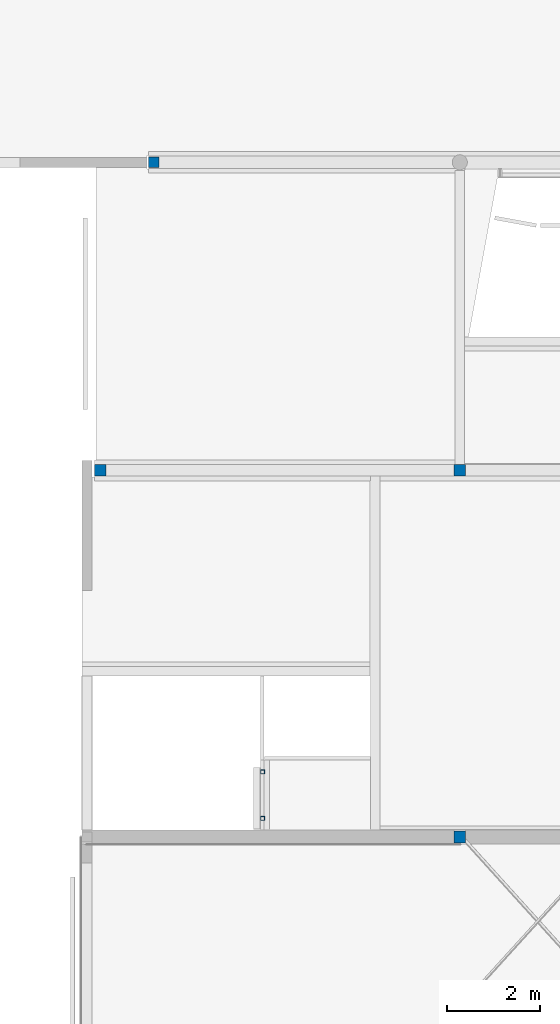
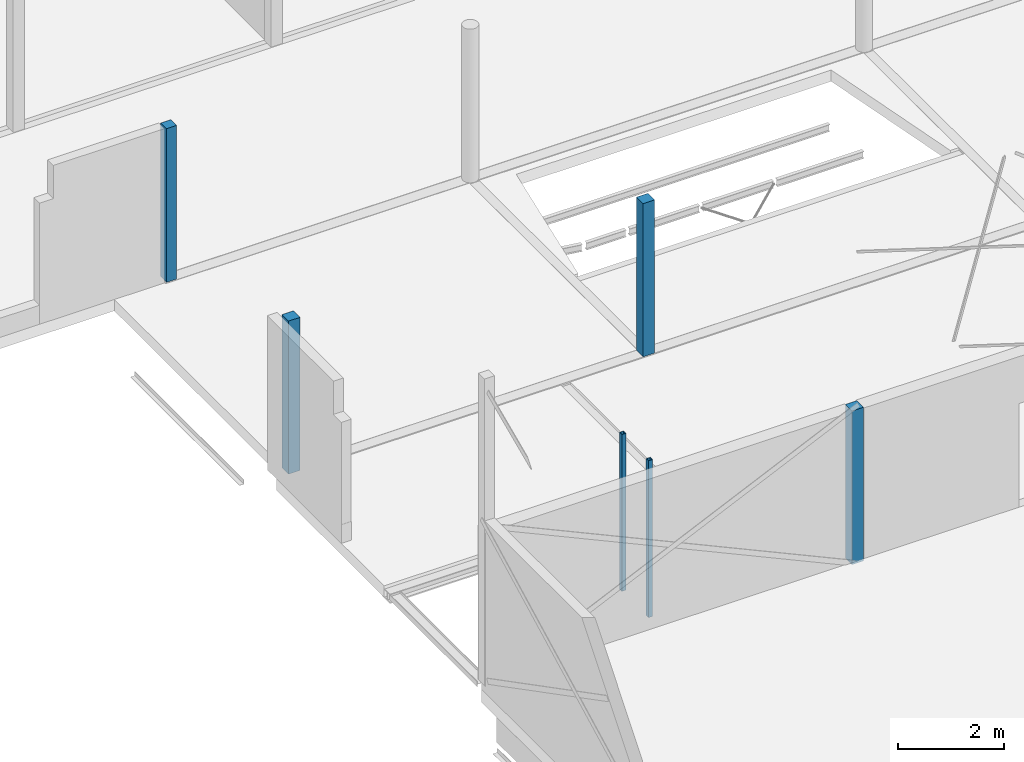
# One storey, part 2 of 14: 6 columns.
"""IFC2X3 building model written with IfcOpenShell, lengths in millimetres."""

from ifc_helpers import new_model, entity, si_unit, converted_unit, derived_unit, direction, frame, frame_2d, origin, place, context, subcontext, project, spatial, polyline, rectangle, outline, extrude, source, transform, mapped, material, material_list, type_object, type_shapes, element, save


model = new_model("IFC2X3")

# Units and contexts
model_context = context("Model", 3, precision=0.01, world=origin(), true_north=direction((6.123031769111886e-17, 1.0)))
body_context = subcontext(model_context, "Body", "Model", "MODEL_VIEW")
ifc_project = project(units=[si_unit("LENGTHUNIT", "METRE", prefix="MILLI"), si_unit("AREAUNIT", "SQUARE_METRE", prefix="MILLI"), si_unit("VOLUMEUNIT", "CUBIC_METRE"), converted_unit("PLANEANGLEUNIT", "DEGREE", entity("IfcPlaneAngleMeasure", 0.017453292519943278), si_unit("PLANEANGLEUNIT", "RADIAN"), dimensions=[0, 0, 0, 0, 0, 0, 0]), si_unit("MASSUNIT", "GRAM", prefix="KILO"), derived_unit("MASSDENSITYUNIT", [(si_unit("MASSUNIT", "GRAM", prefix="KILO"), 1), (si_unit("LENGTHUNIT", "METRE"), -3)]), derived_unit("IONCONCENTRATIONUNIT", [(si_unit("MASSUNIT", "GRAM", prefix="KILO"), 1), (si_unit("LENGTHUNIT", "METRE"), -3)]), derived_unit("MOMENTOFINERTIAUNIT", [(si_unit("LENGTHUNIT", "METRE"), 4)]), si_unit("TIMEUNIT", "SECOND"), si_unit("FREQUENCYUNIT", "HERTZ"), si_unit("THERMODYNAMICTEMPERATUREUNIT", "DEGREE_CELSIUS"), derived_unit("THERMALTRANSMITTANCEUNIT", [(si_unit("MASSUNIT", "GRAM", prefix="KILO"), 1), (si_unit("THERMODYNAMICTEMPERATUREUNIT", "KELVIN"), -1), (si_unit("TIMEUNIT", "SECOND"), -3)]), derived_unit("THERMALCONDUCTANCEUNIT", [(si_unit("MASSUNIT", "GRAM", prefix="KILO"), 1), (si_unit("THERMODYNAMICTEMPERATUREUNIT", "KELVIN"), -1), (si_unit("TIMEUNIT", "SECOND"), -3), (si_unit("LENGTHUNIT", "METRE"), 1)]), derived_unit("VOLUMETRICFLOWRATEUNIT", [(si_unit("LENGTHUNIT", "METRE", prefix="DECI"), 3), (si_unit("TIMEUNIT", "SECOND"), -1)]), derived_unit("MASSFLOWRATEUNIT", [(si_unit("MASSUNIT", "GRAM", prefix="KILO"), 1), (si_unit("TIMEUNIT", "SECOND"), -1)]), derived_unit("ROTATIONALFREQUENCYUNIT", [(si_unit("TIMEUNIT", "SECOND"), -1)]), si_unit("ELECTRICCURRENTUNIT", "AMPERE"), si_unit("ELECTRICVOLTAGEUNIT", "VOLT"), si_unit("POWERUNIT", "WATT"), si_unit("FORCEUNIT", "NEWTON", prefix="KILO"), si_unit("ILLUMINANCEUNIT", "LUX"), si_unit("LUMINOUSFLUXUNIT", "LUMEN"), si_unit("LUMINOUSINTENSITYUNIT", "CANDELA"), si_unit("ENERGYUNIT", "JOULE"), derived_unit("USERDEFINED", [(si_unit("MASSUNIT", "GRAM", prefix="KILO"), -1), (si_unit("LENGTHUNIT", "METRE"), -2), (si_unit("TIMEUNIT", "SECOND"), 3), (si_unit("LUMINOUSFLUXUNIT", "LUMEN"), 1)]), derived_unit("USERDEFINED", [(si_unit("MASSUNIT", "GRAM", prefix="KILO"), 1), (si_unit("TIMEUNIT", "SECOND"), -3), (si_unit("LENGTHUNIT", "METRE"), 3), (si_unit("ELECTRICCURRENTUNIT", "AMPERE"), -2)]), derived_unit("SOUNDPOWERUNIT", [(si_unit("MASSUNIT", "GRAM", prefix="KILO"), 1), (si_unit("TIMEUNIT", "SECOND"), -3), (si_unit("LENGTHUNIT", "METRE"), 2)]), derived_unit("SOUNDPRESSUREUNIT", [(si_unit("MASSUNIT", "GRAM", prefix="KILO"), 1), (si_unit("LENGTHUNIT", "METRE"), -1), (si_unit("TIMEUNIT", "SECOND"), -2)]), derived_unit("LINEARVELOCITYUNIT", [(si_unit("LENGTHUNIT", "METRE"), 1), (si_unit("TIMEUNIT", "SECOND"), -1)]), si_unit("PRESSUREUNIT", "PASCAL"), derived_unit("USERDEFINED", [(si_unit("MASSUNIT", "GRAM", prefix="KILO"), 1), (si_unit("LENGTHUNIT", "METRE"), -2), (si_unit("TIMEUNIT", "SECOND"), -2)]), derived_unit("LINEARFORCEUNIT", [(si_unit("MASSUNIT", "GRAM", prefix="KILO"), 1), (si_unit("TIMEUNIT", "SECOND"), -2)]), derived_unit("PLANARFORCEUNIT", [(si_unit("MASSUNIT", "GRAM", prefix="KILO"), 1), (si_unit("LENGTHUNIT", "METRE"), -1), (si_unit("TIMEUNIT", "SECOND"), -2)]), derived_unit("SPECIFICHEATCAPACITYUNIT", [(si_unit("THERMODYNAMICTEMPERATUREUNIT", "KELVIN"), -1), (si_unit("LENGTHUNIT", "METRE"), 2), (si_unit("TIMEUNIT", "SECOND"), -2)]), derived_unit("HEATFLUXDENSITYUNIT", [(si_unit("MASSUNIT", "GRAM", prefix="KILO"), 1), (si_unit("TIMEUNIT", "SECOND"), -3)]), derived_unit("HEATINGVALUEUNIT", [(si_unit("LENGTHUNIT", "METRE"), 2), (si_unit("TIMEUNIT", "SECOND"), -2)]), derived_unit("VAPORPERMEABILITYUNIT", [(si_unit("LENGTHUNIT", "METRE"), -1), (si_unit("TIMEUNIT", "SECOND"), 1)]), derived_unit("DYNAMICVISCOSITYUNIT", [(si_unit("MASSUNIT", "GRAM", prefix="KILO"), 1), (si_unit("TIMEUNIT", "SECOND"), -1), (si_unit("LENGTHUNIT", "METRE"), -1)]), derived_unit("THERMALEXPANSIONCOEFFICIENTUNIT", [(si_unit("THERMODYNAMICTEMPERATUREUNIT", "KELVIN"), -1)]), derived_unit("MODULUSOFELASTICITYUNIT", [(si_unit("MASSUNIT", "GRAM", prefix="KILO"), 1), (si_unit("LENGTHUNIT", "METRE"), -1), (si_unit("TIMEUNIT", "SECOND"), -2)]), derived_unit("ISOTHERMALMOISTURECAPACITYUNIT", [(si_unit("MASSUNIT", "GRAM", prefix="KILO"), -1), (si_unit("LENGTHUNIT", "METRE"), 3)]), derived_unit("MOISTUREDIFFUSIVITYUNIT", [(si_unit("TIMEUNIT", "SECOND"), -1), (si_unit("LENGTHUNIT", "METRE"), 2)]), derived_unit("MASSPERLENGTHUNIT", [(si_unit("MASSUNIT", "GRAM", prefix="KILO"), 1), (si_unit("LENGTHUNIT", "METRE"), -1)]), derived_unit("THERMALRESISTANCEUNIT", [(si_unit("MASSUNIT", "GRAM", prefix="KILO"), -1), (si_unit("TIMEUNIT", "SECOND"), 3), (si_unit("THERMODYNAMICTEMPERATUREUNIT", "KELVIN"), 1)]), derived_unit("ACCELERATIONUNIT", [(si_unit("LENGTHUNIT", "METRE"), 1), (si_unit("TIMEUNIT", "SECOND"), -2)]), derived_unit("ANGULARVELOCITYUNIT", [(si_unit("TIMEUNIT", "SECOND"), -1), (si_unit("PLANEANGLEUNIT", "RADIAN"), 1)]), derived_unit("LINEARSTIFFNESSUNIT", [(si_unit("MASSUNIT", "GRAM", prefix="KILO"), 1), (si_unit("TIMEUNIT", "SECOND"), -2)]), derived_unit("WARPINGCONSTANTUNIT", [(si_unit("LENGTHUNIT", "METRE"), 6)]), derived_unit("LINEARMOMENTUNIT", [(si_unit("MASSUNIT", "GRAM", prefix="KILO"), 1), (si_unit("LENGTHUNIT", "METRE"), 1), (si_unit("TIMEUNIT", "SECOND"), -2)]), derived_unit("TORQUEUNIT", [(si_unit("MASSUNIT", "GRAM", prefix="KILO"), 1), (si_unit("LENGTHUNIT", "METRE"), 2), (si_unit("TIMEUNIT", "SECOND"), -2)])], contexts=[model_context])

# Site, building, storey
site_placement = place(None, origin())
site = spatial("IfcSite", under=ifc_project, at=site_placement, Name="Default", CompositionType="ELEMENT")
building_placement = place(site_placement, origin())
building = spatial("IfcBuilding", under=site, at=building_placement, CompositionType="ELEMENT")
storey_placement = place(building_placement, frame((0.0, 0.0, 3730.0)))
storey = spatial("IfcBuildingStorey", under=building, at=storey_placement, Name="V1 1e verd. (bk ruwe vloer)", CompositionType="ELEMENT", Elevation=3729.9999999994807)

# Columns
ifc_material_1 = material(Name="Concrete - Cast-in-Place - C30/37")
ifc_material_2 = material(Name="Metal - Steel - S275 J0H (standaard-kokers/buizen)")
ifc_material_list = material_list([ifc_material_1, ifc_material_2])
column_type_1 = type_object("IfcColumnType", Name="btk_staal - Koker + beton:K250x250x8.0", PredefinedType="COLUMN", material=ifc_material_list)
shared_shape_1 = source(origin(), body_context, "Body", "SweptSolid", [
    extrude(rectangle(XDim=234.00000000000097, YDim=233.99999999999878, at=frame_2d((-1.0871303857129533e-12, 0.0), x_axis=(1.0, 0.0))), frame((14699.863108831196, 25344.605013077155, 3740.0), z_axis=(0.0, 0.0, 1.0), x_axis=(-1.0, 0.0, 0.0)), (0.0, 0.0, 1.0), 3514.9999999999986),
    extrude(outline(polyline([(-125.0, -125.0), (125.0, -125.0), (125.0, 125.0), (-125.0, 125.0), (-125.0, -125.0)]), holes=[polyline([(-117.0, -117.0), (-117.0, 117.0), (117.0, 117.0), (117.0, -117.0), (-117.0, -117.0)])]), frame((14699.863108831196, 25344.605013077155, 3740.0), z_axis=(0.0, 0.0, 1.0), x_axis=(-1.0, 0.0, 0.0)), (0.0, 0.0, 1.0), 3514.9999999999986),
])
type_shapes(column_type_1, [shared_shape_1])
column_1_placement = place(storey_placement, frame((0.0, 0.0, -3730.0)))
element("IfcColumn", 1, at=column_1_placement, inside=storey, type_object=column_type_1, material=ifc_material_list, Name="btk_staal - Koker + beton:K250x250x8.0", ObjectType="btk_staal - Koker + beton:K250x250x8.0", context=body_context, shape_type="MappedRepresentation", body=[
    mapped(shared_shape_1, transform((0.0, 0.0, 0.0), scale=1.0)),
])
column_type_2 = type_object("IfcColumnType", Name="btk_staal - Koker + beton:K250x250x8.0", PredefinedType="COLUMN", material=ifc_material_list)
shared_shape_2 = source(origin(), body_context, "Body", "SweptSolid", [
    extrude(rectangle(XDim=233.99999999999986, YDim=233.99999999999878, at=frame_2d((-5.400124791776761e-13, 0.0), x_axis=(1.0, 0.0))), frame((7000.024359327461, 25344.605013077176, 3740.0), z_axis=(0.0, 0.0, 1.0), x_axis=(-1.0, 0.0, 0.0)), (0.0, 0.0, 1.0), 3514.9999999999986),
    extrude(outline(polyline([(-125.0, -125.0), (125.0, -125.0), (125.0, 125.0), (-125.0, 125.0), (-125.0, -125.0)]), holes=[polyline([(-117.0, -117.0), (-117.0, 117.0), (117.0, 117.0), (117.0, -117.0), (-117.0, -117.0)])]), frame((7000.024359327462, 25344.605013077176, 3740.0), z_axis=(0.0, 0.0, 1.0), x_axis=(-1.0, 0.0, 0.0)), (0.0, 0.0, 1.0), 3514.9999999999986),
])
type_shapes(column_type_2, [shared_shape_2])
column_2_placement = place(storey_placement, frame((0.0, 0.0, -3730.0)))
element("IfcColumn", 2, at=column_2_placement, inside=storey, type_object=column_type_2, material=ifc_material_list, Name="btk_staal - Koker + beton:K250x250x8.0", ObjectType="btk_staal - Koker + beton:K250x250x8.0", context=body_context, shape_type="MappedRepresentation", body=[
    mapped(shared_shape_2, transform((0.0, 0.0, 0.0), scale=1.0)),
])
column_type_3 = type_object("IfcColumnType", Name="btk_staal - Koker + beton:K250x250x8.0", PredefinedType="COLUMN", material=ifc_material_list)
shared_shape_3 = source(origin(), body_context, "Body", "SweptSolid", [
    extrude(rectangle(XDim=234.00000000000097, YDim=234.00000000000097, at=frame_2d((-1.0871303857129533e-12, 1.0871303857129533e-12), x_axis=(1.0, 0.0))), frame((14699.863108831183, 17494.60501307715, 3730.0), z_axis=(0.0, 0.0, 1.0), x_axis=(-1.0, 0.0, 0.0)), (0.0, 0.0, 1.0), 3525.000000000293),
    extrude(outline(polyline([(-125.0, -125.0), (125.0, -125.0), (125.0, 125.0), (-125.0, 125.0), (-125.0, -125.0)]), holes=[polyline([(-117.0, -117.0), (-117.0, 117.0), (117.0, 117.0), (117.0, -117.0), (-117.0, -117.0)])]), frame((14699.863108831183, 17494.60501307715, 3730.0), z_axis=(0.0, 0.0, 1.0), x_axis=(-1.0, 0.0, 0.0)), (0.0, 0.0, 1.0), 3525.000000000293),
])
type_shapes(column_type_3, [shared_shape_3])
column_3_placement = place(storey_placement, frame((0.0, 0.0, -3730.0)))
element("IfcColumn", 3, at=column_3_placement, inside=storey, type_object=column_type_3, material=ifc_material_list, Name="btk_staal - Koker + beton:K250x250x8.0", ObjectType="btk_staal - Koker + beton:K250x250x8.0", context=body_context, shape_type="MappedRepresentation", body=[
    mapped(shared_shape_3, transform((0.0, 0.0, 0.0), scale=1.0)),
])
column_type_4 = type_object("IfcColumnType", Name="btk_staal - Koker + beton:K220x220x8", PredefinedType="COLUMN", material=ifc_material_list)
shared_shape_4 = source(origin(), body_context, "Body", "SweptSolid", [
    extrude(rectangle(XDim=204.00000000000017, YDim=204.00000000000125, at=frame_2d((-5.471179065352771e-13, 2.1671553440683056e-12), x_axis=(1.0, 0.0))), frame((8150.556323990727, 31937.573165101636, 3730.0), z_axis=(0.0, 0.0, 1.0), x_axis=(-1.0, 0.0, 0.0)), (0.0, 0.0, 1.0), 3524.9999999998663),
    extrude(outline(polyline([(-110.0, -110.0), (110.0, -110.0), (110.0, 110.0), (-110.0, 110.0), (-110.0, -110.0)]), holes=[polyline([(-102.0, -102.0), (-102.0, 102.0), (102.0, 102.0), (102.0, -102.0), (-102.0, -102.0)])]), frame((8150.556323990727, 31937.573165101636, 3730.0), z_axis=(0.0, 0.0, 1.0), x_axis=(-1.0, 0.0, 0.0)), (0.0, 0.0, 1.0), 3524.9999999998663),
])
type_shapes(column_type_4, [shared_shape_4])
column_4_placement = place(storey_placement, frame((0.0, 0.0, -3730.0)))
element("IfcColumn", 4, at=column_4_placement, inside=storey, type_object=column_type_4, material=ifc_material_list, Name="btk_staal - Koker + beton:K220x220x8", ObjectType="btk_staal - Koker + beton:K220x220x8", context=body_context, shape_type="MappedRepresentation", body=[
    mapped(shared_shape_4, transform((0.0, 0.0, 0.0), scale=1.0)),
])
column_type_5 = type_object("IfcColumnType", Name="btk_staal - Koker:K90x90x8", PredefinedType="COLUMN", material=ifc_material_2)
shared_shape_5 = source(origin(), body_context, "Body", "SweptSolid", [
    extrude(outline(polyline([(-45.0, -45.0), (45.0, -45.0), (45.0, 45.0), (-45.0, 45.0), (-45.0, -45.0)]), holes=[polyline([(-37.0, -37.0), (-37.0, 37.0), (37.0, 37.0), (37.0, -37.0), (-37.0, -37.0)])]), frame((10479.938924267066, 18889.749793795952, 3670.0), z_axis=(0.0, 0.0, 1.0), x_axis=(-1.0, 0.0, 0.0)), (0.0, 0.0, 1.0), 3600.0000000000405),
])
type_shapes(column_type_5, [shared_shape_5])
column_5_placement = place(storey_placement, frame((0.0, 0.0, -3730.0)))
element("IfcColumn", 5, at=column_5_placement, inside=storey, type_object=column_type_5, material=ifc_material_2, Name="btk_staal - Koker:K90x90x8", ObjectType="btk_staal - Koker:K90x90x8", context=body_context, shape_type="MappedRepresentation", body=[
    mapped(shared_shape_5, transform((0.0, 0.0, 0.0), scale=1.0)),
])
column_type_6 = type_object("IfcColumnType", Name="btk_staal - Koker:K90x90x8", PredefinedType="COLUMN", material=ifc_material_2)
shared_shape_6 = source(origin(), body_context, "Body", "SweptSolid", [
    extrude(outline(polyline([(-45.0, -45.0), (45.0, -45.0), (45.0, 45.0), (-45.0, 45.0), (-45.0, -45.0)]), holes=[polyline([(-37.0, -37.0), (-37.0, 37.0), (37.0, 37.0), (37.0, -37.0), (-37.0, -37.0)])]), frame((10479.938924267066, 17894.605013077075, 3670.0), z_axis=(0.0, 0.0, 1.0), x_axis=(-1.0, 0.0, 0.0)), (0.0, 0.0, 1.0), 3600.0000000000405),
])
type_shapes(column_type_6, [shared_shape_6])
column_6_placement = place(storey_placement, frame((0.0, 0.0, -3730.0)))
element("IfcColumn", 6, at=column_6_placement, inside=storey, type_object=column_type_6, material=ifc_material_2, Name="btk_staal - Koker:K90x90x8", ObjectType="btk_staal - Koker:K90x90x8", context=body_context, shape_type="MappedRepresentation", body=[
    mapped(shared_shape_6, transform((0.0, 0.0, 0.0), scale=1.0)),
])

save(model, "model.ifc")
